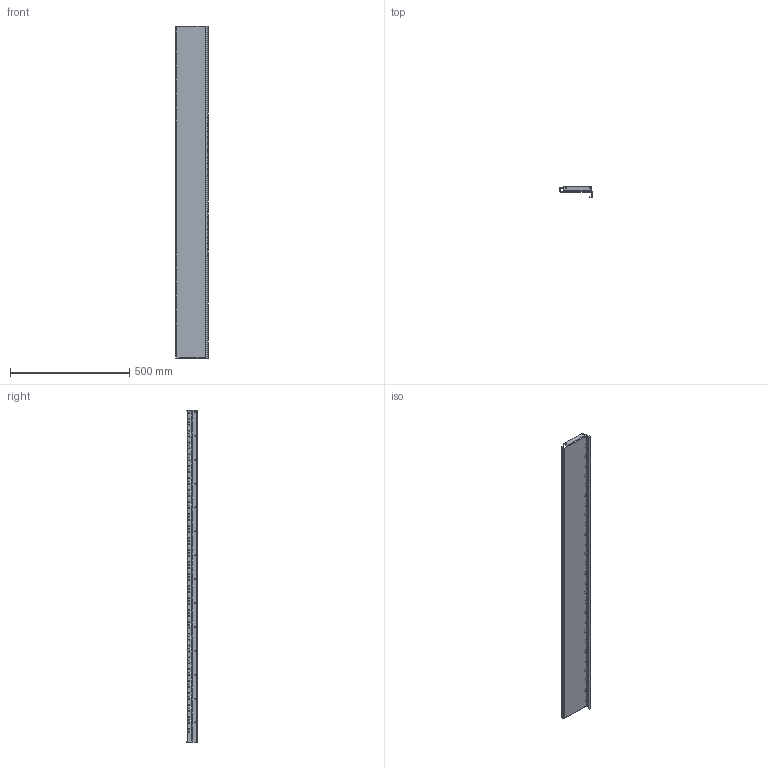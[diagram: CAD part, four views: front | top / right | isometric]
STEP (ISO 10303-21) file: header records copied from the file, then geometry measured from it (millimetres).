
FILE_DESCRIPTION(('CAx-IF Rec.Pracs.---Model Styling and Organization---1.2---2011-12-15','CAx-IF Rec.Pracs.---Geometric and Assembly Validation Properties---4.1---2014-06-16','CAx-IF Rec.Pracs.---PMI Polyline Presentation---2.0---2013-05-24'),'2;1');
FILE_NAME('R5M2ACRR27M12.stp','2021-05-05T11:59:03+03:00',(''),(''),'STEP Interface 4.4 by CT CoreTechnologie','3D_Evolution4.4 by CT CoreTechnologie','');
FILE_SCHEMA(('AUTOMOTIVE_DESIGN { 1 0 10303 214 1 1 1 1 }'));
Length unit declared in the file: millimetre
Products named in the file (2): R5M2ACRR27M12; RB.1401.00.00.0_-01
Assembly tree (1 placements, depth 2):
  R5M2ACRR27M12
    RB.1401.00.00.0_-01
Bounding box: 135 x 45 x 1390 mm (x, y, z)
Surface area: 554728.4 mm2 (no closed solid volume)
Topology: 0 solids, 1 shells, 920 faces, 3228 edges, 2146 vertices
Faces by surface type: plane 600, cylinder 320
Entity records: 35257 total; most frequent: ORIENTED_EDGE 6456, CARTESIAN_POINT 6296, DIRECTION 5712, EDGE_CURVE 3228, VECTOR 2588, LINE 2588, VERTEX_POINT 2146, AXIS2_PLACEMENT_3D 1562
